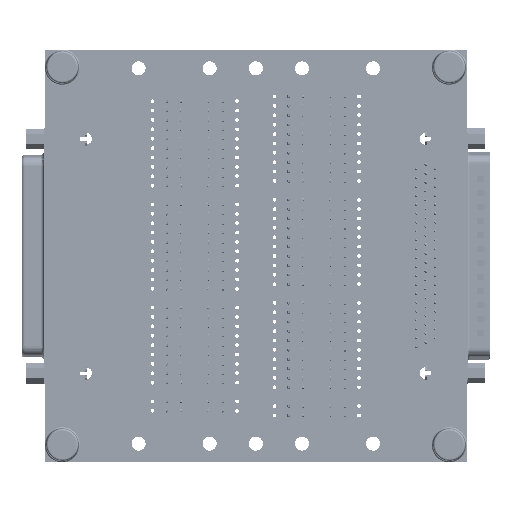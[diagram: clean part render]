
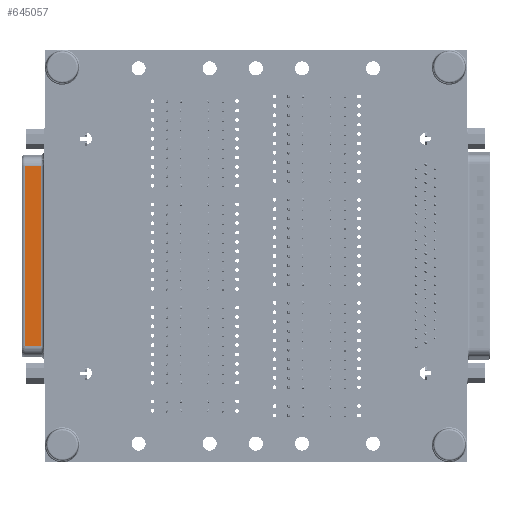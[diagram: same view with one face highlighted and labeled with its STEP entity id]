
A CAD part, front view. The second image highlights one B-rep face of the part: STEP entity #645057.
In plain terms, the highlighted planar face has unit normal (0, -1, 0).
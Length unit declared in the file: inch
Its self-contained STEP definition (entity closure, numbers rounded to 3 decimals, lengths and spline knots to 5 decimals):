
#7467 = EDGE_CURVE ( 'NONE', #223971, #714554, #62576, .T. ) ;
#30550 = CARTESIAN_POINT ( 'NONE',  ( -0.95916, -0.15551, -0.0325 ) ) ;
#39509 = EDGE_CURVE ( 'NONE', #145279, #115226, #784776, .T. ) ;
#62576 = LINE ( 'NONE', #298198, #342476 ) ;
#82471 = ORIENTED_EDGE ( 'NONE', *, *, #489917, .T. ) ;
#115226 = VERTEX_POINT ( 'NONE', #766094 ) ;
#136017 = VECTOR ( 'NONE', #756479, 39.37008 ) ;
#140169 = CARTESIAN_POINT ( 'NONE',  ( -0.95916, -0.15551, -0.0325 ) ) ;
#140636 = CARTESIAN_POINT ( 'NONE',  ( -0.95916, -0.15551, -0.20028 ) ) ;
#141075 = ORIENTED_EDGE ( 'NONE', *, *, #7467, .F. ) ;
#145279 = VERTEX_POINT ( 'NONE', #664929 ) ;
#200572 = VECTOR ( 'NONE', #201126, 39.37008 ) ;
#201126 = DIRECTION ( 'NONE',  ( -1., 0., 0. ) ) ;
#223971 = VERTEX_POINT ( 'NONE', #140636 ) ;
#228947 = EDGE_CURVE ( 'NONE', #223971, #145279, #621836, .T. ) ;
#298198 = CARTESIAN_POINT ( 'NONE',  ( -0.95916, -0.15551, 0. ) ) ;
#336334 = DIRECTION ( 'NONE',  ( 0., 0., -1. ) ) ;
#342476 = VECTOR ( 'NONE', #425348, 39.37008 ) ;
#425348 = DIRECTION ( 'NONE',  ( 0., 0., 1. ) ) ;
#425977 = EDGE_LOOP ( 'NONE', ( #627680, #82471, #141075, #790541 ) ) ;
#443229 = VECTOR ( 'NONE', #610940, 39.37008 ) ;
#460500 = AXIS2_PLACEMENT_3D ( 'NONE', #466211, #474801, #336334 ) ;
#466211 = CARTESIAN_POINT ( 'NONE',  ( -0.95916, -0.15551, 0. ) ) ;
#474801 = DIRECTION ( 'NONE',  ( 0., -1., 0. ) ) ;
#489917 = EDGE_CURVE ( 'NONE', #115226, #714554, #489928, .T. ) ;
#489928 = LINE ( 'NONE', #140169, #200572 ) ;
#567259 = FACE_OUTER_BOUND ( 'NONE', #425977, .T. ) ;
#605297 = CARTESIAN_POINT ( 'NONE',  ( 0.95916, -0.15551, 0. ) ) ;
#610940 = DIRECTION ( 'NONE',  ( 0., 0., 1. ) ) ;
#621836 = LINE ( 'NONE', #753653, #136017 ) ;
#627680 = ORIENTED_EDGE ( 'NONE', *, *, #39509, .T. ) ;
#645057 = ADVANCED_FACE ( 'NONE', ( #567259 ), #795602, .T. ) ;
#664929 = CARTESIAN_POINT ( 'NONE',  ( 0.95916, -0.15551, -0.20028 ) ) ;
#714554 = VERTEX_POINT ( 'NONE', #30550 ) ;
#753653 = CARTESIAN_POINT ( 'NONE',  ( -0.96366, -0.15551, -0.20028 ) ) ;
#756479 = DIRECTION ( 'NONE',  ( 1., 0., 0. ) ) ;
#766094 = CARTESIAN_POINT ( 'NONE',  ( 0.95916, -0.15551, -0.0325 ) ) ;
#784776 = LINE ( 'NONE', #605297, #443229 ) ;
#790541 = ORIENTED_EDGE ( 'NONE', *, *, #228947, .T. ) ;
#795602 = PLANE ( 'NONE',  #460500 ) ;
